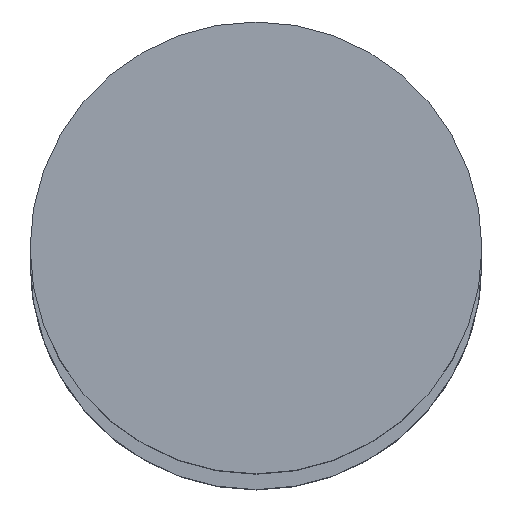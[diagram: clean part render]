
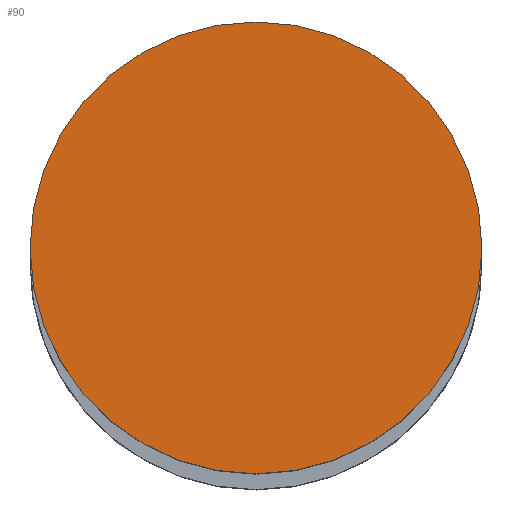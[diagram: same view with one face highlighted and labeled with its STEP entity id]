
A CAD part, top view. The second image highlights one B-rep face of the part: STEP entity #90.
In plain terms, the highlighted planar face has unit normal (0, 0, 1).
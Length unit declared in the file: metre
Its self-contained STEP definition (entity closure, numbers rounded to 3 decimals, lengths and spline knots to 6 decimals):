
#90=ADVANCED_FACE('25:217',(#177),#178,.T.);
#177=FACE_OUTER_BOUND('',#265,.T.);
#178=PLANE('',#266);
#265=EDGE_LOOP('',(#422,#423));
#266=AXIS2_PLACEMENT_3D('',#424,#425,#426);
#422=ORIENTED_EDGE('',*,*,#544,.F.);
#423=ORIENTED_EDGE('',*,*,#529,.F.);
#424=CARTESIAN_POINT('',(0.0,0.0,3.284));
#425=DIRECTION('',(0.0,0.0,1.0));
#426=DIRECTION('',(1.0,0.0,0.0));
#529=EDGE_CURVE('',#636,#638,#639,.F.);
#544=EDGE_CURVE('',#638,#636,#659,.F.);
#636=VERTEX_POINT('',#771);
#638=VERTEX_POINT('',#774);
#639=CIRCLE('',#775,0.0155);
#659=CIRCLE('',#798,0.0155);
#771=CARTESIAN_POINT('',(0.015408,0.000095,3.284));
#774=CARTESIAN_POINT('',(-0.015592,0.000095,3.284));
#775=AXIS2_PLACEMENT_3D('',#892,#893,#894);
#798=AXIS2_PLACEMENT_3D('',#916,#917,#918);
#892=CARTESIAN_POINT('',(-0.000092,0.000095,3.284));
#893=DIRECTION('',(0.0,0.0,1.0));
#894=DIRECTION('',(1.0,0.0,0.0));
#916=CARTESIAN_POINT('',(-0.000092,0.000095,3.284));
#917=DIRECTION('',(0.0,0.0,1.0));
#918=DIRECTION('',(1.0,0.0,0.0));
